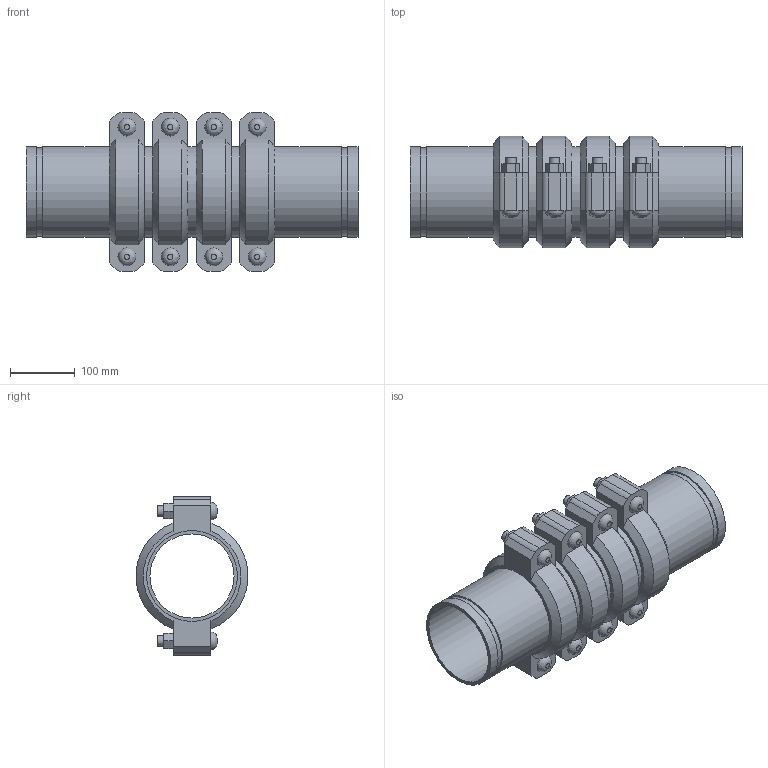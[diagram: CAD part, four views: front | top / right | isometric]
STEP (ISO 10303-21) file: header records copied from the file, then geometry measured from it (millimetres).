
FILE_DESCRIPTION(/* description */ ('VIC EXPANSION JOINT 4 COUPLINGS EXPANDED STYLE 155 (OGS)','CAx-IF Rec.Pracs.---Representation and Presentation of Product Manufacturing Information (PMI)---4.0---2014-10-13'),/* implementation_level */ '2;1');
FILE_NAME(/* name */ 'C:\Users\kkamble\AppData\Roaming\Autodesk\ApplicationPlugins\Victaulic.Temp\A310\Victaulic_IPS_Expansion Joint_Expanded_4 Couplings_Style 155 (OGS)_05.0 (139.7) (125).stp',/* time_stamp */ '2021-06-27T00:00:43+02:00',/* author */ ('kkamble'),/* organization */ ('Victaulic'),/* preprocessor_version */ 'ST-DEVELOPER v17.2',/* originating_system */ 'Autodesk Inventor 2019',/* authorisation */ '');
FILE_SCHEMA (('AP242_MANAGED_MODEL_BASED_3D_ENGINEERING_MIM_LF { 1 0 10303 442 1 1 4 }'));
Length unit declared in the file: inch
Products named in the file (4): 155-05.0 (139.7); Nipple-05.0 (139.7); Nipple-05.0 (139.7)_1; 075-05.0 (139.7)
Assembly tree (9 placements, depth 2):
  155-05.0 (139.7)
    Nipple-05.0 (139.7)  x2
    Nipple-05.0 (139.7)_1  x3
    075-05.0 (139.7)  x4
Bounding box: 510.79 x 172.14 x 243.59 mm (x, y, z)
Volume: 3537952.6 mm3; surface area: 852689.5 mm2
Topology: 9 solids, 17 shells, 288 faces, 682 edges, 480 vertices
Faces by surface type: plane 174, cylinder 90, cone 16, bspline 8
Full cylindrical faces by diameter (mm): 15.875 x16, 17.424 x8, 129.388 x5, 133.35 x4, 135.484 x10, 139.7 x23
Entity records: 2785 total; most frequent: CARTESIAN_POINT 493, DIRECTION 461, ORIENTED_EDGE 386, EDGE_CURVE 193, AXIS2_PLACEMENT_3D 184, VERTEX_POINT 138, EDGE_LOOP 107, LINE 93
